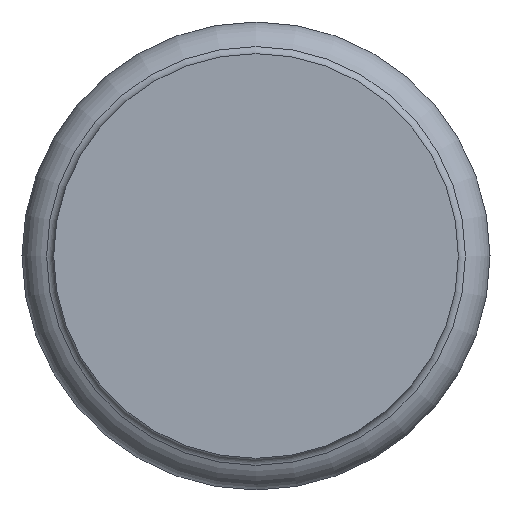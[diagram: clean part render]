
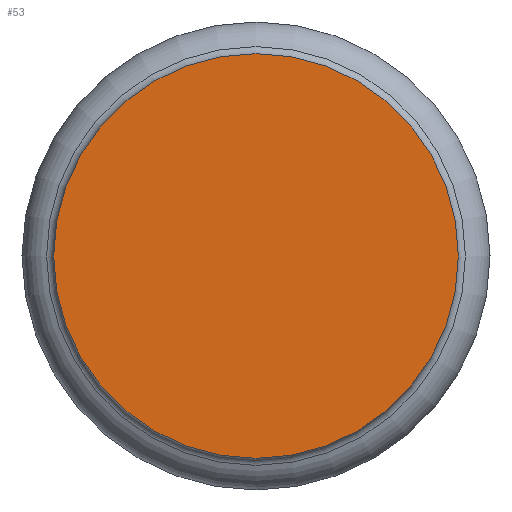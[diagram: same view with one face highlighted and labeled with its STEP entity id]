
A CAD part, front view. The second image highlights one B-rep face of the part: STEP entity #53.
In plain terms, the highlighted planar face has unit normal (0, -1, 0).
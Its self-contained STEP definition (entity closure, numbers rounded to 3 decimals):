
#53=ADVANCED_FACE('',(#64),#66,.T.);
#64=FACE_BOUND('',#65,.T.);
#65=EDGE_LOOP('',(#159));
#66=PLANE('',#67);
#67=AXIS2_PLACEMENT_3D('',#68,#69,#70);
#68=CARTESIAN_POINT('',(0.,-54.,0.));
#69=DIRECTION('',(0.,-1.,0.));
#70=DIRECTION('',(0.,0.,1.));
#159=ORIENTED_EDGE('',*,*,#179,.F.);
#179=EDGE_CURVE('',#189,#189,#190,.T.);
#189=VERTEX_POINT('',#209);
#190=CIRCLE('',#210,19.15);
#209=CARTESIAN_POINT('',(0.,-54.,19.15));
#210=AXIS2_PLACEMENT_3D('',#211,#212,#213);
#211=CARTESIAN_POINT('',(0.,-54.,0.));
#212=DIRECTION('',(0.,1.,0.));
#213=DIRECTION('',(0.,0.,1.));
